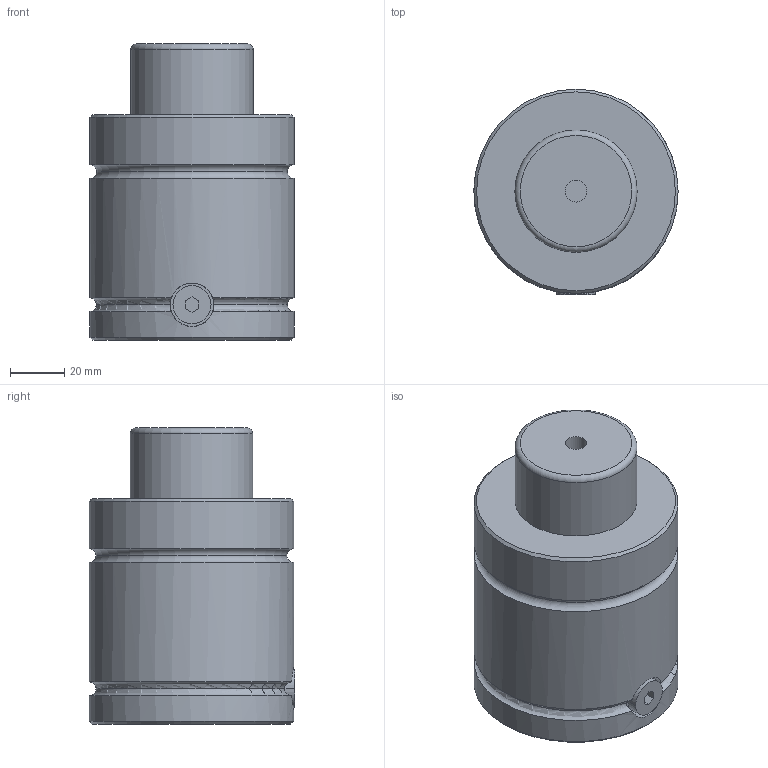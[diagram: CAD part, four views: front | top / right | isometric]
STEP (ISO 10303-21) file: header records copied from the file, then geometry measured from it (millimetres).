
FILE_DESCRIPTION(('FreeCAD Model'),'2;1');
FILE_NAME('Open CASCADE Shape Model','2024-11-13T16:06:35',('Author'),( ''),'Open CASCADE STEP processor 7.6','FreeCAD','Unknown');
FILE_SCHEMA(('AUTOMOTIVE_DESIGN { 1 0 10303 214 1 1 1 1 }'));
Length unit declared in the file: millimetre
Products named in the file (7): Unnamed1; Part005; Cut001; Part009; 3; Part012; Cut
Assembly tree (6 placements, depth 3):
  Unnamed1
    Part005
      Cut001
    Part009
      3
    Part012
      Cut
Bounding box: 75.2 x 75.6 x 109 mm (x, y, z)
Volume: 399909.7 mm3; surface area: 38964.8 mm2
Topology: 3 solids, 3 shells, 45 faces, 84 edges, 52 vertices
Faces by surface type: plane 20, cylinder 14, torus 7, cone 4
Full cylindrical faces by diameter (mm): 8 x1, 12 x4, 16 x1, 45 x1, 75.2 x3
Entity records: 1485 total; most frequent: CARTESIAN_POINT 414, DIRECTION 224, ORIENTED_EDGE 168, AXIS2_PLACEMENT_3D 94, EDGE_CURVE 84, FACE_BOUND 52, EDGE_LOOP 52, VERTEX_POINT 52
